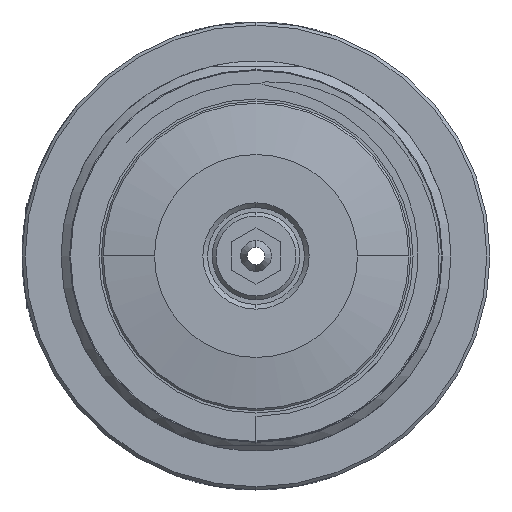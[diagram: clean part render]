
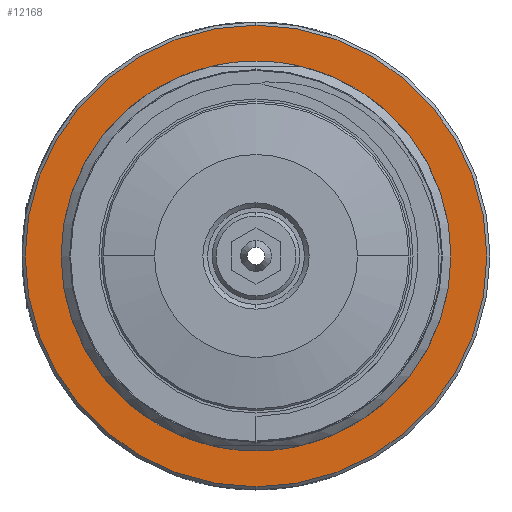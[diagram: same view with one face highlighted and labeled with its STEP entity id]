
A CAD part, left-side view. The second image highlights one B-rep face of the part: STEP entity #12168.
In plain terms, the highlighted planar face has unit normal (-1, 0, 0).
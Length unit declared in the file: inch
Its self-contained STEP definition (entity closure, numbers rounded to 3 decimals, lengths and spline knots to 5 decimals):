
#4639 = DIRECTION ( 'NONE',  ( 0., 0., 1. ) ) ;
#4641 = DIRECTION ( 'NONE',  ( -1., 0., 0. ) ) ;
#4642 = CARTESIAN_POINT ( 'NONE',  ( -1.75, 0., 0. ) ) ;
#4644 = AXIS2_PLACEMENT_3D ( 'NONE', #4642, #4641, #4639 ) ;
#4646 = CIRCLE ( 'NONE', #4644, 1.225 ) ;
#4708 = FACE_BOUND ( 'NONE', #12125, .T. ) ;
#4709 = FACE_OUTER_BOUND ( 'NONE', #12089, .T. ) ;
#4711 = DIRECTION ( 'NONE',  ( 0., 0., 1. ) ) ;
#4712 = DIRECTION ( 'NONE',  ( -1., 0., 0. ) ) ;
#4713 = AXIS2_PLACEMENT_3D ( 'NONE', #4728, #4712, #4711 ) ;
#4715 = CIRCLE ( 'NONE', #4713, 1.4775 ) ;
#4728 = CARTESIAN_POINT ( 'NONE',  ( -1.75, 0., 0. ) ) ;
#4888 = DIRECTION ( 'NONE',  ( -1., 0., 0. ) ) ;
#4889 = CARTESIAN_POINT ( 'NONE',  ( -1.75, 1.225, 0. ) ) ;
#4891 = AXIS2_PLACEMENT_3D ( 'NONE', #4889, #4888, #4979 ) ;
#4979 = DIRECTION ( 'NONE',  ( 0., 0., 1. ) ) ;
#5160 = PLANE ( 'NONE',  #4891 ) ;
#8392 = VERTEX_POINT ( 'NONE', #12602 ) ;
#8396 = VERTEX_POINT ( 'NONE', #12601 ) ;
#8581 = EDGE_CURVE ( 'NONE', #8392, #8396, #10516, .T. ) ;
#8593 = EDGE_CURVE ( 'NONE', #8595, #8597, #10567, .T. ) ;
#8595 = VERTEX_POINT ( 'NONE', #10563 ) ;
#8597 = VERTEX_POINT ( 'NONE', #10562 ) ;
#10512 = DIRECTION ( 'NONE',  ( 0., 0., 1. ) ) ;
#10513 = DIRECTION ( 'NONE',  ( -1., 0., 0. ) ) ;
#10514 = CARTESIAN_POINT ( 'NONE',  ( -1.75, 0., 0. ) ) ;
#10515 = AXIS2_PLACEMENT_3D ( 'NONE', #10514, #10513, #10512 ) ;
#10516 = CIRCLE ( 'NONE', #10515, 1.225 ) ;
#10562 = CARTESIAN_POINT ( 'NONE',  ( -1.75, 0., -1.4775 ) ) ;
#10563 = CARTESIAN_POINT ( 'NONE',  ( -1.75, 0., 1.4775 ) ) ;
#10564 = DIRECTION ( 'NONE',  ( 0., 0., 1. ) ) ;
#10565 = DIRECTION ( 'NONE',  ( -1., 0., 0. ) ) ;
#10566 = AXIS2_PLACEMENT_3D ( 'NONE', #10572, #10565, #10564 ) ;
#10567 = CIRCLE ( 'NONE', #10566, 1.4775 ) ;
#10572 = CARTESIAN_POINT ( 'NONE',  ( -1.75, 0., 0. ) ) ;
#12089 = EDGE_LOOP ( 'NONE', ( #12123, #12124 ) ) ;
#12123 = ORIENTED_EDGE ( 'NONE', *, *, #12165, .T. ) ;
#12124 = ORIENTED_EDGE ( 'NONE', *, *, #8593, .T. ) ;
#12125 = EDGE_LOOP ( 'NONE', ( #12126, #12128 ) ) ;
#12126 = ORIENTED_EDGE ( 'NONE', *, *, #12127, .F. ) ;
#12127 = EDGE_CURVE ( 'NONE', #8396, #8392, #4646, .T. ) ;
#12128 = ORIENTED_EDGE ( 'NONE', *, *, #8581, .F. ) ;
#12165 = EDGE_CURVE ( 'NONE', #8597, #8595, #4715, .T. ) ;
#12168 = ADVANCED_FACE ( 'NONE', ( #4709, #4708 ), #5160, .T. ) ;
#12601 = CARTESIAN_POINT ( 'NONE',  ( -1.75, 0., 1.225 ) ) ;
#12602 = CARTESIAN_POINT ( 'NONE',  ( -1.75, 0., -1.225 ) ) ;
